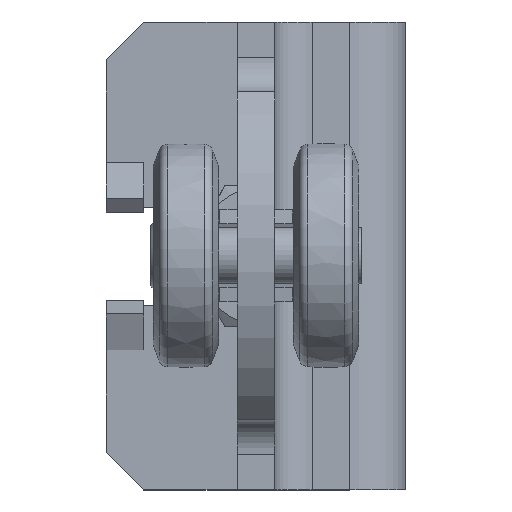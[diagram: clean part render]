
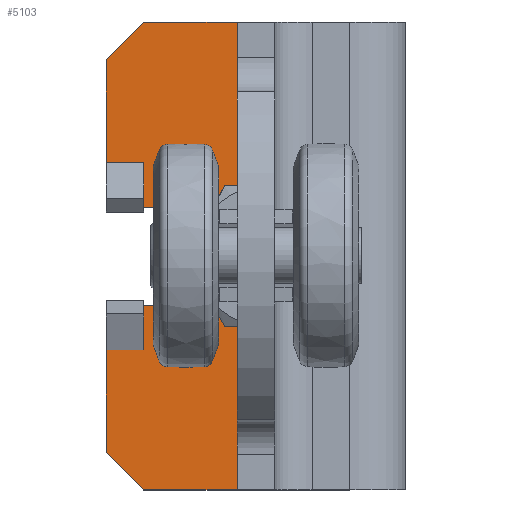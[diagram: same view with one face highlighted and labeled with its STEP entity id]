
A CAD part, top view. The second image highlights one B-rep face of the part: STEP entity #5103.
In plain terms, the highlighted planar face has unit normal (0, 0, 1).
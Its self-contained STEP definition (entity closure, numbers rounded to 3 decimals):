
#278=CIRCLE('',#5555,10.5);
#580=FACE_OUTER_BOUND('',#874,.T.);
#874=EDGE_LOOP('',(#3405,#3406,#3407,#3408,#3409,#3410,#3411,#3412,#3413,
#3414,#3415,#3416,#3417,#3418,#3419,#3420,#3421,#3422));
#1191=LINE('',#7837,#1640);
#1193=LINE('',#7841,#1642);
#1194=LINE('',#7843,#1643);
#1195=LINE('',#7845,#1644);
#1196=LINE('',#7847,#1645);
#1197=LINE('',#7849,#1646);
#1198=LINE('',#7851,#1647);
#1199=LINE('',#7853,#1648);
#1200=LINE('',#7855,#1649);
#1201=LINE('',#7857,#1650);
#1202=LINE('',#7859,#1651);
#1203=LINE('',#7861,#1652);
#1204=LINE('',#7863,#1653);
#1205=LINE('',#7867,#1654);
#1206=LINE('',#7869,#1655);
#1207=LINE('',#7871,#1656);
#1208=LINE('',#7872,#1657);
#1640=VECTOR('',#6187,10.);
#1642=VECTOR('',#6191,10.);
#1643=VECTOR('',#6192,10.);
#1644=VECTOR('',#6193,10.);
#1645=VECTOR('',#6194,10.);
#1646=VECTOR('',#6195,10.);
#1647=VECTOR('',#6196,10.);
#1648=VECTOR('',#6197,10.);
#1649=VECTOR('',#6198,10.);
#1650=VECTOR('',#6199,10.);
#1651=VECTOR('',#6200,10.);
#1652=VECTOR('',#6201,10.);
#1653=VECTOR('',#6202,10.);
#1654=VECTOR('',#6205,10.);
#1655=VECTOR('',#6206,10.);
#1656=VECTOR('',#6207,10.);
#1657=VECTOR('',#6208,10.);
#2082=VERTEX_POINT('',#7821);
#2085=VERTEX_POINT('',#7828);
#2087=VERTEX_POINT('',#7840);
#2088=VERTEX_POINT('',#7842);
#2089=VERTEX_POINT('',#7844);
#2090=VERTEX_POINT('',#7846);
#2091=VERTEX_POINT('',#7848);
#2092=VERTEX_POINT('',#7850);
#2093=VERTEX_POINT('',#7852);
#2094=VERTEX_POINT('',#7854);
#2095=VERTEX_POINT('',#7856);
#2096=VERTEX_POINT('',#7858);
#2097=VERTEX_POINT('',#7860);
#2098=VERTEX_POINT('',#7862);
#2099=VERTEX_POINT('',#7864);
#2100=VERTEX_POINT('',#7866);
#2101=VERTEX_POINT('',#7868);
#2102=VERTEX_POINT('',#7870);
#2605=EDGE_CURVE('',#2082,#2085,#1191,.T.);
#2607=EDGE_CURVE('',#2087,#2085,#1193,.T.);
#2608=EDGE_CURVE('',#2088,#2087,#1194,.T.);
#2609=EDGE_CURVE('',#2089,#2088,#1195,.T.);
#2610=EDGE_CURVE('',#2089,#2090,#1196,.T.);
#2611=EDGE_CURVE('',#2091,#2090,#1197,.T.);
#2612=EDGE_CURVE('',#2092,#2091,#1198,.T.);
#2613=EDGE_CURVE('',#2093,#2092,#1199,.T.);
#2614=EDGE_CURVE('',#2093,#2094,#1200,.T.);
#2615=EDGE_CURVE('',#2094,#2095,#1201,.T.);
#2616=EDGE_CURVE('',#2095,#2096,#1202,.T.);
#2617=EDGE_CURVE('',#2096,#2097,#1203,.T.);
#2618=EDGE_CURVE('',#2098,#2097,#1204,.T.);
#2619=EDGE_CURVE('',#2099,#2098,#278,.T.);
#2620=EDGE_CURVE('',#2100,#2099,#1205,.T.);
#2621=EDGE_CURVE('',#2100,#2101,#1206,.T.);
#2622=EDGE_CURVE('',#2101,#2102,#1207,.T.);
#2623=EDGE_CURVE('',#2102,#2082,#1208,.T.);
#3405=ORIENTED_EDGE('',*,*,#2605,.T.);
#3406=ORIENTED_EDGE('',*,*,#2607,.F.);
#3407=ORIENTED_EDGE('',*,*,#2608,.F.);
#3408=ORIENTED_EDGE('',*,*,#2609,.F.);
#3409=ORIENTED_EDGE('',*,*,#2610,.T.);
#3410=ORIENTED_EDGE('',*,*,#2611,.F.);
#3411=ORIENTED_EDGE('',*,*,#2612,.F.);
#3412=ORIENTED_EDGE('',*,*,#2613,.F.);
#3413=ORIENTED_EDGE('',*,*,#2614,.T.);
#3414=ORIENTED_EDGE('',*,*,#2615,.T.);
#3415=ORIENTED_EDGE('',*,*,#2616,.T.);
#3416=ORIENTED_EDGE('',*,*,#2617,.T.);
#3417=ORIENTED_EDGE('',*,*,#2618,.F.);
#3418=ORIENTED_EDGE('',*,*,#2619,.F.);
#3419=ORIENTED_EDGE('',*,*,#2620,.F.);
#3420=ORIENTED_EDGE('',*,*,#2621,.T.);
#3421=ORIENTED_EDGE('',*,*,#2622,.T.);
#3422=ORIENTED_EDGE('',*,*,#2623,.T.);
#4948=PLANE('',#5554);
#5103=ADVANCED_FACE('',(#580),#4948,.T.);
#5554=AXIS2_PLACEMENT_3D('',#7839,#6189,#6190);
#5555=AXIS2_PLACEMENT_3D('',#7865,#6203,#6204);
#6187=DIRECTION('',(-1.,0.,0.));
#6189=DIRECTION('center_axis',(0.,0.,1.));
#6190=DIRECTION('ref_axis',(1.,0.,0.));
#6191=DIRECTION('',(0.,1.,0.));
#6192=DIRECTION('',(-0.707,0.707,0.));
#6193=DIRECTION('',(-1.,0.,0.));
#6194=DIRECTION('',(0.,1.,0.));
#6195=DIRECTION('',(1.,0.,0.));
#6196=DIRECTION('',(0.707,0.707,0.));
#6197=DIRECTION('',(0.,1.,0.));
#6198=DIRECTION('',(1.,0.,0.));
#6199=DIRECTION('',(0.,1.,0.));
#6200=DIRECTION('',(1.,0.,0.));
#6201=DIRECTION('',(0.,-1.,0.));
#6202=DIRECTION('',(-1.,0.,0.));
#6203=DIRECTION('center_axis',(0.,0.,1.));
#6204=DIRECTION('ref_axis',(0.,-1.,0.));
#6205=DIRECTION('',(1.,0.,0.));
#6206=DIRECTION('',(0.,-1.,0.));
#6207=DIRECTION('',(-1.,0.,0.));
#6208=DIRECTION('',(0.,1.,0.));
#7821=CARTESIAN_POINT('',(-26.,-19.99,0.));
#7828=CARTESIAN_POINT('',(-34.,-19.99,0.));
#7837=CARTESIAN_POINT('',(1.148,-19.99,0.));
#7839=CARTESIAN_POINT('Origin',(36.295,0.,0.));
#7840=CARTESIAN_POINT('',(-34.,-42.,0.));
#7841=CARTESIAN_POINT('',(-34.,-42.,0.));
#7842=CARTESIAN_POINT('',(-26.,-50.,0.));
#7843=CARTESIAN_POINT('',(-26.,-50.,0.));
#7844=CARTESIAN_POINT('',(18.,-50.,0.));
#7845=CARTESIAN_POINT('',(81.,-50.,0.));
#7846=CARTESIAN_POINT('',(18.,50.,0.));
#7847=CARTESIAN_POINT('',(18.,25.,0.));
#7848=CARTESIAN_POINT('',(-26.,50.,0.));
#7849=CARTESIAN_POINT('',(-26.,50.,0.));
#7850=CARTESIAN_POINT('',(-34.,42.,0.));
#7851=CARTESIAN_POINT('',(-34.,42.,0.));
#7852=CARTESIAN_POINT('',(-34.,19.99,0.));
#7853=CARTESIAN_POINT('',(-34.,10.5,0.));
#7854=CARTESIAN_POINT('',(-26.,19.99,0.));
#7855=CARTESIAN_POINT('',(5.148,19.99,0.));
#7856=CARTESIAN_POINT('',(-26.,20.,0.));
#7857=CARTESIAN_POINT('',(-26.,10.,0.));
#7858=CARTESIAN_POINT('',(-25.99,20.,0.));
#7859=CARTESIAN_POINT('',(5.153,20.,0.));
#7860=CARTESIAN_POINT('',(-25.99,10.5,0.));
#7861=CARTESIAN_POINT('',(-25.99,5.25,0.));
#7862=CARTESIAN_POINT('',(0.,10.5,0.));
#7863=CARTESIAN_POINT('',(0.,10.5,0.));
#7864=CARTESIAN_POINT('',(0.,-10.5,0.));
#7865=CARTESIAN_POINT('Origin',(0.,0.,0.));
#7866=CARTESIAN_POINT('',(-25.99,-10.5,0.));
#7867=CARTESIAN_POINT('',(-34.,-10.5,0.));
#7868=CARTESIAN_POINT('',(-25.99,-20.,0.));
#7869=CARTESIAN_POINT('',(-25.99,-10.,0.));
#7870=CARTESIAN_POINT('',(-26.,-20.,0.));
#7871=CARTESIAN_POINT('',(5.148,-20.,0.));
#7872=CARTESIAN_POINT('',(-26.,-5.25,0.));
